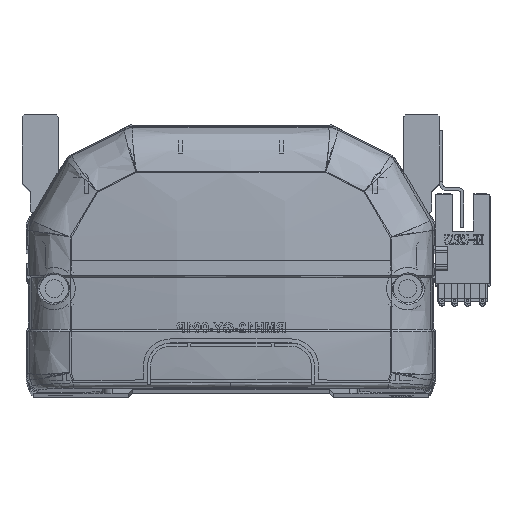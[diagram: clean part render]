
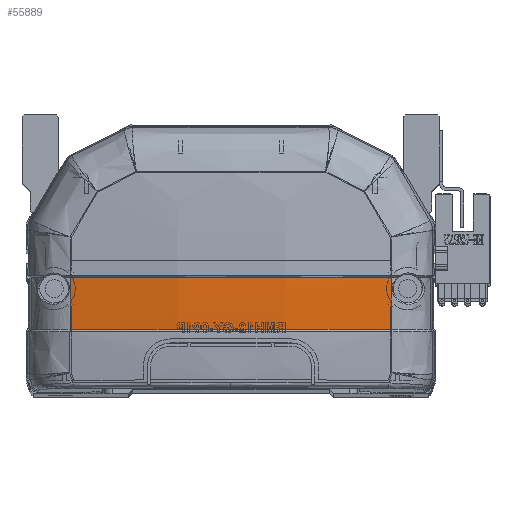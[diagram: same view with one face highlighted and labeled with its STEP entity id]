
A CAD part, top view. The second image highlights one B-rep face of the part: STEP entity #55889.
In plain terms, the highlighted free-form (B-spline) face has degree [3, 3] with [4, 4] control points.
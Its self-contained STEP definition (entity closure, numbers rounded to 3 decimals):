
#824 = CARTESIAN_POINT ( 'NONE',  ( -13.598, 19.918, -10.302 ) ) ;
#1036 = CARTESIAN_POINT ( 'NONE',  ( -40.461, 24.47, -6.231 ) ) ;
#1045 = CARTESIAN_POINT ( 'NONE',  ( -39.985, 15.83, -5.879 ) ) ;
#1651 = CARTESIAN_POINT ( 'NONE',  ( 13.598, 15.499, -10.032 ) ) ;
#3067 = VERTEX_POINT ( 'NONE', #14116 ) ;
#3163 = CARTESIAN_POINT ( 'NONE',  ( 39.973, 20.12, -6.142 ) ) ;
#4816 = CARTESIAN_POINT ( 'NONE',  ( -23.389, 15.83, -7.947 ) ) ;
#5490 = CARTESIAN_POINT ( 'NONE',  ( -40.461, 15.757, -5.8 ) ) ;
#5683 = CARTESIAN_POINT ( 'NONE',  ( -40.461, 28.832, -6.296 ) ) ;
#6109 = CARTESIAN_POINT ( 'NONE',  ( -39.963, 28.706, -6.372 ) ) ;
#6352 = EDGE_CURVE ( 'NONE', #59281, #43745, #22779, .T. ) ;
#8171 = EDGE_CURVE ( 'NONE', #3067, #43745, #55050, .T. ) ;
#8501 = CARTESIAN_POINT ( 'NONE',  ( 26.761, 15.83, -7.945 ) ) ;
#8803 = CARTESIAN_POINT ( 'NONE',  ( 39.966, 24.413, -6.306 ) ) ;
#9085 = CARTESIAN_POINT ( 'NONE',  ( -6.692, 15.83, -8.984 ) ) ;
#13003 =( BOUNDED_SURFACE ( )  B_SPLINE_SURFACE ( 3, 3, ( 
 ( #33875, #56369, #52090, #43178 ),
 ( #1651, #33470, #56956, #34076 ),
 ( #33671, #824, #24115, #33265 ),
 ( #5490, #51896, #1036, #5683 ) ),
 .UNSPECIFIED., .F., .F., .F. ) 
 B_SPLINE_SURFACE_WITH_KNOTS ( ( 4, 4 ),
 ( 4, 4 ),
 ( 0., 1. ),
 ( 0., 1. ),
 .UNSPECIFIED. ) 
 GEOMETRIC_REPRESENTATION_ITEM ( )  RATIONAL_B_SPLINE_SURFACE ( (
 ( 1., 1., 1., 1.),
 ( 0.992, 0.992, 0.992, 0.992),
 ( 0.992, 0.992, 0.992, 0.992),
 ( 1., 1., 1., 1.) ) ) 
 REPRESENTATION_ITEM ( '' )  SURFACE ( )  );
#13739 = CARTESIAN_POINT ( 'NONE',  ( -13.384, 15.83, -8.724 ) ) ;
#14116 = CARTESIAN_POINT ( 'NONE',  ( 39.985, 15.83, -5.879 ) ) ;
#20476 = CARTESIAN_POINT ( 'NONE',  ( -39.966, 24.412, -6.306 ) ) ;
#20612 = FACE_OUTER_BOUND ( 'NONE', #23463, .T. ) ;
#22408 = CARTESIAN_POINT ( 'NONE',  ( 39.963, 28.706, -6.372 ) ) ;
#22609 = CARTESIAN_POINT ( 'NONE',  ( 39.963, 28.706, -6.372 ) ) ;
#22779 = B_SPLINE_CURVE_WITH_KNOTS ( 'NONE', 3,
 ( #36397, #49640, #45547, #31156, #35646, #22408 ),
 .UNSPECIFIED., .F., .F.,
 ( 4, 2, 4 ),
 ( 0., 0.5, 1. ),
 .UNSPECIFIED. ) ;
#23463 = EDGE_LOOP ( 'NONE', ( #53691, #32839, #55556, #56118 ) ) ;
#23599 = CARTESIAN_POINT ( 'NONE',  ( -26.721, 15.83, -7.624 ) ) ;
#24115 = CARTESIAN_POINT ( 'NONE',  ( -13.598, 24.342, -10.47 ) ) ;
#25154 = CARTESIAN_POINT ( 'NONE',  ( -39.973, 20.118, -6.142 ) ) ;
#31156 = CARTESIAN_POINT ( 'NONE',  ( 13.375, 28.707, -9.468 ) ) ;
#31956 = CARTESIAN_POINT ( 'NONE',  ( 39.985, 15.83, -5.879 ) ) ;
#32839 = ORIENTED_EDGE ( 'NONE', *, *, #6352, .F. ) ;
#33265 = CARTESIAN_POINT ( 'NONE',  ( -13.598, 28.769, -10.535 ) ) ;
#33470 = CARTESIAN_POINT ( 'NONE',  ( 13.598, 19.918, -10.302 ) ) ;
#33671 = CARTESIAN_POINT ( 'NONE',  ( -13.598, 15.499, -10.032 ) ) ;
#33875 = CARTESIAN_POINT ( 'NONE',  ( 40.461, 15.757, -5.8 ) ) ;
#34076 = CARTESIAN_POINT ( 'NONE',  ( 13.598, 28.769, -10.535 ) ) ;
#35549 = CARTESIAN_POINT ( 'NONE',  ( -39.963, 28.706, -6.372 ) ) ;
#35646 = CARTESIAN_POINT ( 'NONE',  ( 26.749, 28.706, -8.432 ) ) ;
#36124 = EDGE_CURVE ( 'NONE', #3067, #50896, #51222, .T. ) ;
#36397 = CARTESIAN_POINT ( 'NONE',  ( -39.963, 28.706, -6.372 ) ) ;
#41163 = CARTESIAN_POINT ( 'NONE',  ( 39.963, 28.706, -6.372 ) ) ;
#41263 = CARTESIAN_POINT ( 'NONE',  ( 13.38, 15.83, -8.984 ) ) ;
#43178 = CARTESIAN_POINT ( 'NONE',  ( 40.461, 28.832, -6.296 ) ) ;
#43745 = VERTEX_POINT ( 'NONE', #22609 ) ;
#44699 = CARTESIAN_POINT ( 'NONE',  ( 39.985, 15.83, -5.879 ) ) ;
#45547 = CARTESIAN_POINT ( 'NONE',  ( -13.373, 28.707, -9.468 ) ) ;
#46244 = B_SPLINE_CURVE_WITH_KNOTS ( 'NONE', 3,
 ( #6109, #20476, #25154, #1045 ),
 .UNSPECIFIED., .F., .F.,
 ( 4, 4 ),
 ( 0., 1. ),
 .UNSPECIFIED. ) ;
#46733 = CARTESIAN_POINT ( 'NONE',  ( -33.365, 15.83, -6.848 ) ) ;
#49575 = CARTESIAN_POINT ( 'NONE',  ( -39.985, 15.83, -5.879 ) ) ;
#49640 = CARTESIAN_POINT ( 'NONE',  ( -26.748, 28.706, -8.432 ) ) ;
#50896 = VERTEX_POINT ( 'NONE', #49575 ) ;
#51222 = B_SPLINE_CURVE_WITH_KNOTS ( 'NONE', 3,
 ( #31956, #8501, #41263, #9085, #13739, #4816, #23599, #46733, #56280, #55477 ),
 .UNSPECIFIED., .F., .F.,
 ( 4, 2, 2, 2, 4 ),
 ( 0., 0.04, 0.06, 0.07, 0.08 ),
 .UNSPECIFIED. ) ;
#51896 = CARTESIAN_POINT ( 'NONE',  ( -40.461, 20.111, -6.066 ) ) ;
#52090 = CARTESIAN_POINT ( 'NONE',  ( 40.461, 24.47, -6.231 ) ) ;
#53691 = ORIENTED_EDGE ( 'NONE', *, *, #8171, .T. ) ;
#55050 = B_SPLINE_CURVE_WITH_KNOTS ( 'NONE', 3,
 ( #44699, #3163, #8803, #41163 ),
 .UNSPECIFIED., .F., .F.,
 ( 4, 4 ),
 ( 0., 1. ),
 .UNSPECIFIED. ) ;
#55477 = CARTESIAN_POINT ( 'NONE',  ( -39.985, 15.83, -5.879 ) ) ;
#55556 = ORIENTED_EDGE ( 'NONE', *, *, #58301, .T. ) ;
#55889 = ADVANCED_FACE ( 'NONE', ( #20612 ), #13003, .F. ) ;
#56118 = ORIENTED_EDGE ( 'NONE', *, *, #36124, .F. ) ;
#56280 = CARTESIAN_POINT ( 'NONE',  ( -36.679, 15.83, -6.395 ) ) ;
#56369 = CARTESIAN_POINT ( 'NONE',  ( 40.461, 20.111, -6.066 ) ) ;
#56956 = CARTESIAN_POINT ( 'NONE',  ( 13.598, 24.342, -10.47 ) ) ;
#58301 = EDGE_CURVE ( 'NONE', #59281, #50896, #46244, .T. ) ;
#59281 = VERTEX_POINT ( 'NONE', #35549 ) ;
